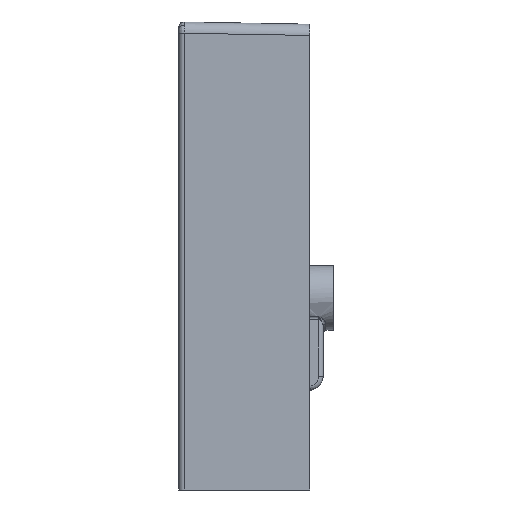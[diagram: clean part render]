
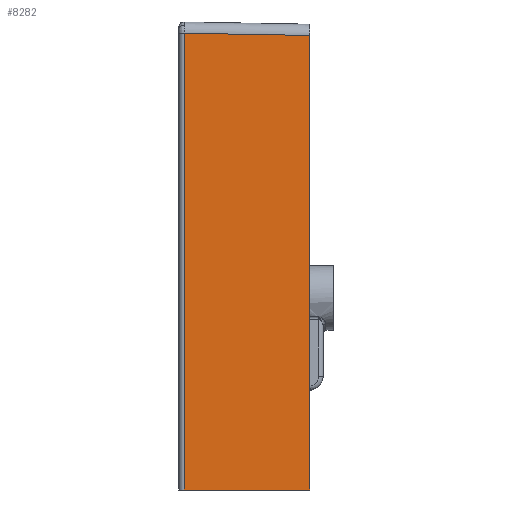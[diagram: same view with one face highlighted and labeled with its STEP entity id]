
A CAD part, left-side view. The second image highlights one B-rep face of the part: STEP entity #8282.
In plain terms, the highlighted planar face has unit normal (-1, -0.018, 0).
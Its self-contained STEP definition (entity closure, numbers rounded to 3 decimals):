
#1386 = LINE ( 'NONE', #4947, #16624 ) ;
#4947 = CARTESIAN_POINT ( 'NONE',  ( -14.851, -3.792, 474.74 ) ) ;
#5765 = PLANE ( 'NONE',  #46704 ) ;
#8282 = ADVANCED_FACE ( 'NONE', ( #29178 ), #5765, .T. ) ;
#8450 = EDGE_CURVE ( 'NONE', #9794, #40557, #1386, .T. ) ;
#9225 = VERTEX_POINT ( 'NONE', #38951 ) ;
#9794 = VERTEX_POINT ( 'NONE', #47521 ) ;
#11382 = DIRECTION ( 'NONE',  ( 0., 0., -1. ) ) ;
#12071 = EDGE_CURVE ( 'NONE', #40557, #26945, #50114, .T. ) ;
#12840 = CARTESIAN_POINT ( 'NONE',  ( -14.9, -1.018, -13.116 ) ) ;
#13344 = VECTOR ( 'NONE', #11382, 1000. ) ;
#13953 = CARTESIAN_POINT ( 'NONE',  ( -14.9, -1.018, 474.789 ) ) ;
#16624 = VECTOR ( 'NONE', #36495, 1000. ) ;
#17205 = DIRECTION ( 'NONE',  ( -0.017, 1., 0. ) ) ;
#17211 = CARTESIAN_POINT ( 'NONE',  ( -15., 4.721, -13.113 ) ) ;
#20612 = EDGE_LOOP ( 'NONE', ( #35175, #42387, #38424, #41606 ) ) ;
#21777 = CARTESIAN_POINT ( 'NONE',  ( -15., 4.721, -13.116 ) ) ;
#25608 = DIRECTION ( 'NONE',  ( 0.017, -1., 0. ) ) ;
#25691 = EDGE_CURVE ( 'NONE', #9225, #9794, #34937, .T. ) ;
#26945 = VERTEX_POINT ( 'NONE', #12840 ) ;
#27046 = CARTESIAN_POINT ( 'NONE',  ( -12.556, -135.279, -13.113 ) ) ;
#29178 = FACE_OUTER_BOUND ( 'NONE', #20612, .T. ) ;
#29422 = DIRECTION ( 'NONE',  ( -1., -0.017, 0. ) ) ;
#32918 = EDGE_CURVE ( 'NONE', #9225, #26945, #36552, .T. ) ;
#34937 = LINE ( 'NONE', #27046, #35226 ) ;
#35175 = ORIENTED_EDGE ( 'NONE', *, *, #8450, .T. ) ;
#35226 = VECTOR ( 'NONE', #42578, 1000. ) ;
#36495 = DIRECTION ( 'NONE',  ( -0.017, 1., 0.017 ) ) ;
#36552 = LINE ( 'NONE', #21777, #39405 ) ;
#37893 = CARTESIAN_POINT ( 'NONE',  ( -14.9, -1.018, -13.113 ) ) ;
#38424 = ORIENTED_EDGE ( 'NONE', *, *, #32918, .F. ) ;
#38951 = CARTESIAN_POINT ( 'NONE',  ( -12.556, -135.279, -13.116 ) ) ;
#39405 = VECTOR ( 'NONE', #17205, 1000. ) ;
#40557 = VERTEX_POINT ( 'NONE', #13953 ) ;
#41606 = ORIENTED_EDGE ( 'NONE', *, *, #25691, .T. ) ;
#42387 = ORIENTED_EDGE ( 'NONE', *, *, #12071, .T. ) ;
#42578 = DIRECTION ( 'NONE',  ( 0., 0., 1. ) ) ;
#46704 = AXIS2_PLACEMENT_3D ( 'NONE', #17211, #29422, #25608 ) ;
#47521 = CARTESIAN_POINT ( 'NONE',  ( -12.556, -135.279, 472.445 ) ) ;
#50114 = LINE ( 'NONE', #37893, #13344 ) ;
